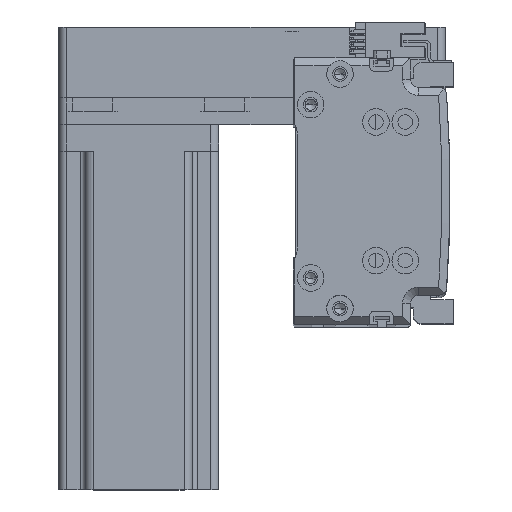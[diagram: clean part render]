
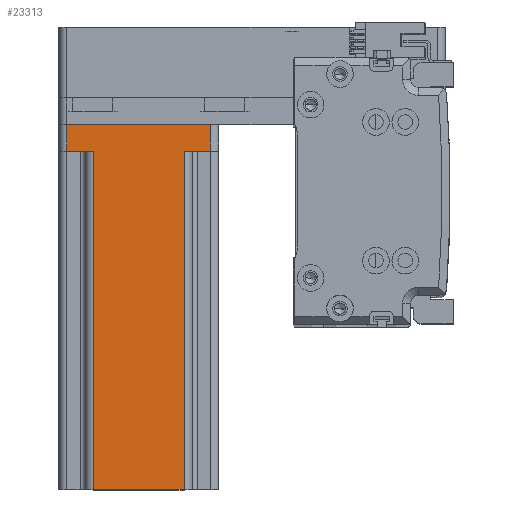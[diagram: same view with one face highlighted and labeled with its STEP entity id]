
A CAD part, top view. The second image highlights one B-rep face of the part: STEP entity #23313.
In plain terms, the highlighted planar face has unit normal (0, 0, 1) as drawn and (0, -1, 0) by its records, which use the part's own axes.
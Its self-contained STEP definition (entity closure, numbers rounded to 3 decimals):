
#1325 = DIRECTION ( 'NONE',  ( 0., 0., 1. ) ) ;
#1715 = VECTOR ( 'NONE', #7992, 1000. ) ;
#1912 = VECTOR ( 'NONE', #38379, 1000. ) ;
#2922 = CARTESIAN_POINT ( 'NONE',  ( 30., -30., 137. ) ) ;
#3222 = CARTESIAN_POINT ( 'NONE',  ( 17., -30., 137. ) ) ;
#3480 = EDGE_CURVE ( 'NONE', #17941, #46443, #43240, .T. ) ;
#3553 = EDGE_CURVE ( 'NONE', #46443, #22740, #24480, .T. ) ;
#3910 = AXIS2_PLACEMENT_3D ( 'NONE', #2922, #28265, #6596 ) ;
#4588 = ORIENTED_EDGE ( 'NONE', *, *, #35221, .T. ) ;
#5300 = VECTOR ( 'NONE', #6309, 1000. ) ;
#6309 = DIRECTION ( 'NONE',  ( 1., 0., 0. ) ) ;
#6596 = DIRECTION ( 'NONE',  ( -1., 0., 0. ) ) ;
#6706 = LINE ( 'NONE', #38751, #15202 ) ;
#7023 = EDGE_CURVE ( 'NONE', #33491, #9834, #26934, .T. ) ;
#7992 = DIRECTION ( 'NONE',  ( 0., 0., -1. ) ) ;
#9533 = ORIENTED_EDGE ( 'NONE', *, *, #32414, .F. ) ;
#9834 = VERTEX_POINT ( 'NONE', #31177 ) ;
#12793 = CARTESIAN_POINT ( 'NONE',  ( -17., -30., 10. ) ) ;
#12871 = CARTESIAN_POINT ( 'NONE',  ( 20., -30., 10. ) ) ;
#13205 = CARTESIAN_POINT ( 'NONE',  ( -17., -30., 137. ) ) ;
#14326 = VECTOR ( 'NONE', #19995, 1000. ) ;
#14975 = ORIENTED_EDGE ( 'NONE', *, *, #3553, .T. ) ;
#15088 = VECTOR ( 'NONE', #30221, 1000. ) ;
#15202 = VECTOR ( 'NONE', #42366, 1000. ) ;
#17941 = VERTEX_POINT ( 'NONE', #28083 ) ;
#18908 = CARTESIAN_POINT ( 'NONE',  ( -27., -30., 137. ) ) ;
#19257 = VECTOR ( 'NONE', #1325, 1000. ) ;
#19627 = CARTESIAN_POINT ( 'NONE',  ( 17., -30., 137. ) ) ;
#19995 = DIRECTION ( 'NONE',  ( -1., 0., 0. ) ) ;
#20990 = LINE ( 'NONE', #18908, #1715 ) ;
#21076 = ORIENTED_EDGE ( 'NONE', *, *, #37545, .T. ) ;
#22740 = VERTEX_POINT ( 'NONE', #19627 ) ;
#23273 = ORIENTED_EDGE ( 'NONE', *, *, #7023, .T. ) ;
#23313 = ADVANCED_FACE ( 'NONE', ( #27162 ), #28098, .F. ) ;
#24366 = EDGE_LOOP ( 'NONE', ( #9533, #29329, #27975, #21076, #23273, #4588, #33825, #14975 ) ) ;
#24480 = LINE ( 'NONE', #3222, #43807 ) ;
#25678 = LINE ( 'NONE', #27802, #5300 ) ;
#26543 = CARTESIAN_POINT ( 'NONE',  ( 30., -30., 0. ) ) ;
#26934 = LINE ( 'NONE', #26543, #15088 ) ;
#27162 = FACE_OUTER_BOUND ( 'NONE', #24366, .T. ) ;
#27802 = CARTESIAN_POINT ( 'NONE',  ( -20., -30., 10. ) ) ;
#27975 = ORIENTED_EDGE ( 'NONE', *, *, #34428, .F. ) ;
#28083 = CARTESIAN_POINT ( 'NONE',  ( 27., -30., 10. ) ) ;
#28098 = PLANE ( 'NONE',  #3910 ) ;
#28265 = DIRECTION ( 'NONE',  ( 0., 1., 0. ) ) ;
#28570 = DIRECTION ( 'NONE',  ( 0., 0., 1. ) ) ;
#29185 = CARTESIAN_POINT ( 'NONE',  ( -27., -30., 10. ) ) ;
#29329 = ORIENTED_EDGE ( 'NONE', *, *, #31275, .T. ) ;
#29674 = LINE ( 'NONE', #13205, #1912 ) ;
#30221 = DIRECTION ( 'NONE',  ( 1., 0., 0. ) ) ;
#31177 = CARTESIAN_POINT ( 'NONE',  ( 27., -30., 0. ) ) ;
#31275 = EDGE_CURVE ( 'NONE', #32955, #39074, #29674, .T. ) ;
#32414 = EDGE_CURVE ( 'NONE', #32955, #22740, #6706, .T. ) ;
#32955 = VERTEX_POINT ( 'NONE', #45203 ) ;
#33491 = VERTEX_POINT ( 'NONE', #35204 ) ;
#33825 = ORIENTED_EDGE ( 'NONE', *, *, #3480, .T. ) ;
#34428 = EDGE_CURVE ( 'NONE', #44123, #39074, #25678, .T. ) ;
#35204 = CARTESIAN_POINT ( 'NONE',  ( -27., -30., 0. ) ) ;
#35221 = EDGE_CURVE ( 'NONE', #9834, #17941, #38565, .T. ) ;
#37545 = EDGE_CURVE ( 'NONE', #44123, #33491, #20990, .T. ) ;
#38379 = DIRECTION ( 'NONE',  ( 0., 0., -1. ) ) ;
#38565 = LINE ( 'NONE', #44887, #19257 ) ;
#38751 = CARTESIAN_POINT ( 'NONE',  ( 30., -30., 137. ) ) ;
#39074 = VERTEX_POINT ( 'NONE', #12793 ) ;
#42366 = DIRECTION ( 'NONE',  ( 1., 0., 0. ) ) ;
#43240 = LINE ( 'NONE', #12871, #14326 ) ;
#43807 = VECTOR ( 'NONE', #28570, 1000. ) ;
#44123 = VERTEX_POINT ( 'NONE', #29185 ) ;
#44887 = CARTESIAN_POINT ( 'NONE',  ( 27., -30., 137. ) ) ;
#45053 = CARTESIAN_POINT ( 'NONE',  ( 17., -30., 10. ) ) ;
#45203 = CARTESIAN_POINT ( 'NONE',  ( -17., -30., 137. ) ) ;
#46443 = VERTEX_POINT ( 'NONE', #45053 ) ;
